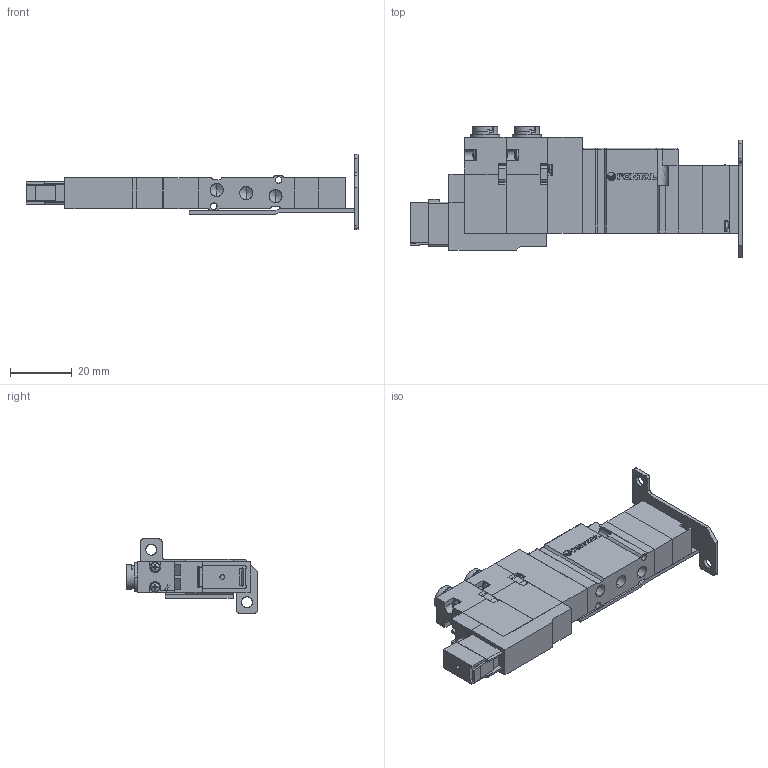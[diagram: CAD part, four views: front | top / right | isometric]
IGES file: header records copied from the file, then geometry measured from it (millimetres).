
Start section: SolidWorks IGES file using analytic representation for surfaces
Global section: file name: C:\Users\Toshiba\Desktop\A05FD35#-BF-#-#-E.IGS; native system: SolidWorks 2014; preprocessor: SolidWorks 2014; author: Toshiba; date: 160125.144811; units: millimetre
Bounding box: 107.5 x 42.6 x 24 mm (x, y, z)
Surface area: 20120.1 mm2 (no closed solid volume)
Topology: 0 solids, 0 shells, 947 faces, 8026 edges, 7992 vertices
Faces by surface type: bspline 642, revolution 305
